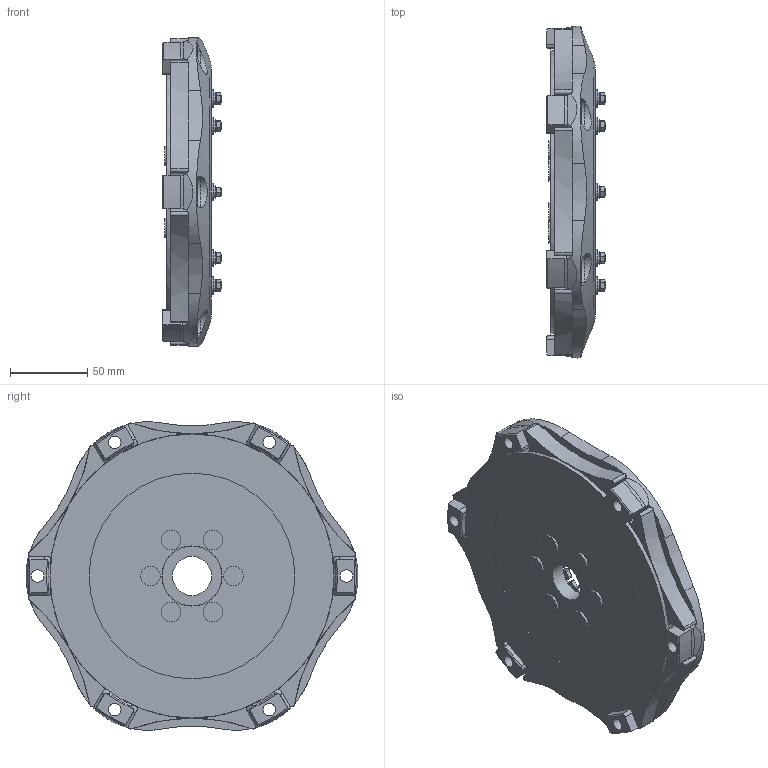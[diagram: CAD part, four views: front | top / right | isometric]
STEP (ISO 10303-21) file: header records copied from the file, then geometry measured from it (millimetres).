
FILE_DESCRIPTION(/* description */ ('Unknown'),/* implementation_level */ '2;1');
FILE_NAME(/* name */ '66-001HG-A',/* time_stamp */ '2020-10-16T08:07:41-07:00',/* author */ ('Unknown'),/* organization */ ('Unknown'),/* preprocessor_version */ 'ST-DEVELOPER v16.7',/* originating_system */ 'DEX',/* authorisation */ $);
FILE_SCHEMA (('AUTOMOTIVE_DESIGN {1 0 10303 214 3 1 1}'));
Length unit declared in the file: millimetre
Products named in the file (1): 66-001HG-A
Bounding box: 37.97 x 215.2 x 199.98 mm (x, y, z)
Volume: 631941.7 mm3; surface area: 134505.5 mm2
Topology: 1 solids, 1 shells, 738 faces, 1919 edges, 1248 vertices
Faces by surface type: plane 350, cylinder 313, cone 40, torus 35
Full cylindrical faces by diameter (mm): 4.572 x8, 4.902 x8, 8.077 x6, 8.128 x8, 9.093 x6, 11.176 x8, 12.7 x6, 25.4 x1, 38.837 x1, 38.938 x1, 97.472 x1, 114.3 x1, 133.35 x1, 184.15 x1
Entity records: 22473 total; most frequent: CARTESIAN_POINT 4590, DIRECTION 3800, ORIENTED_EDGE 3612, EDGE_CURVE 1806, AXIS2_PLACEMENT_3D 1451, VERTEX_POINT 1212, LINE 898, VECTOR 898
